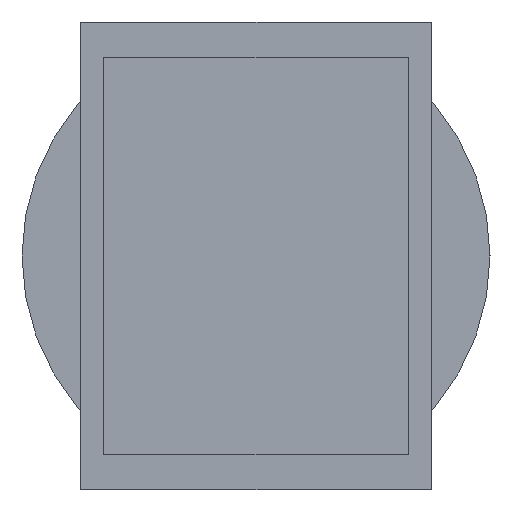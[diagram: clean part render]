
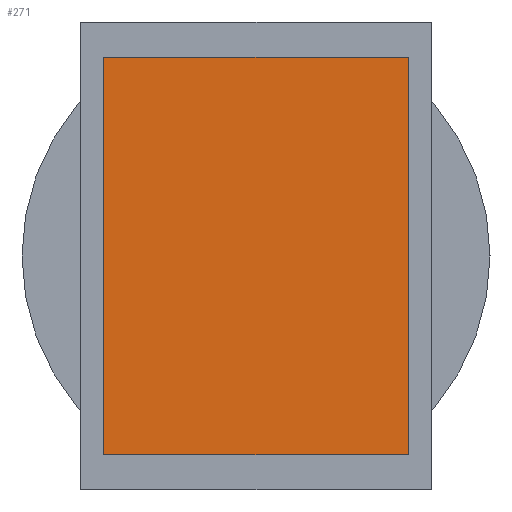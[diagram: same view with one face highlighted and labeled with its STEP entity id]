
A CAD part, left-side view. The second image highlights one B-rep face of the part: STEP entity #271.
In plain terms, the highlighted planar face has unit normal (-1, 0, 0).
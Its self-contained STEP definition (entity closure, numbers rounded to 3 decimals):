
#11 = VERTEX_POINT ( 'NONE', #242 ) ;
#34 = ORIENTED_EDGE ( 'NONE', *, *, #183, .F. ) ;
#35 = ORIENTED_EDGE ( 'NONE', *, *, #161, .F. ) ;
#66 = EDGE_CURVE ( 'NONE', #67, #68, #337, .T. ) ;
#67 = VERTEX_POINT ( 'NONE', #369 ) ;
#68 = VERTEX_POINT ( 'NONE', #368 ) ;
#150 = EDGE_CURVE ( 'NONE', #11, #67, #563, .T. ) ;
#161 = EDGE_CURVE ( 'NONE', #68, #184, #682, .T. ) ;
#183 = EDGE_CURVE ( 'NONE', #184, #11, #653, .T. ) ;
#184 = VERTEX_POINT ( 'NONE', #649 ) ;
#242 = CARTESIAN_POINT ( 'NONE',  ( 0., 0.65, -0.85 ) ) ;
#271 = ADVANCED_FACE ( 'NONE', ( #592 ), #591, .F. ) ;
#274 = EDGE_LOOP ( 'NONE', ( #275, #276, #34, #35 ) ) ;
#275 = ORIENTED_EDGE ( 'NONE', *, *, #66, .F. ) ;
#276 = ORIENTED_EDGE ( 'NONE', *, *, #150, .F. ) ;
#334 = DIRECTION ( 'NONE',  ( 0., -1., 0. ) ) ;
#335 = VECTOR ( 'NONE', #334, 1000. ) ;
#336 = CARTESIAN_POINT ( 'NONE',  ( 0., 0.65, 0.85 ) ) ;
#337 = LINE ( 'NONE', #336, #335 ) ;
#368 = CARTESIAN_POINT ( 'NONE',  ( 0., -0.65, 0.85 ) ) ;
#369 = CARTESIAN_POINT ( 'NONE',  ( 0., 0.65, 0.85 ) ) ;
#560 = DIRECTION ( 'NONE',  ( 0., 0., 1. ) ) ;
#561 = VECTOR ( 'NONE', #560, 1000. ) ;
#562 = CARTESIAN_POINT ( 'NONE',  ( 0., 0.65, 0.85 ) ) ;
#563 = LINE ( 'NONE', #562, #561 ) ;
#587 = DIRECTION ( 'NONE',  ( 0., 0., -1. ) ) ;
#588 = DIRECTION ( 'NONE',  ( 1., 0., 0. ) ) ;
#589 = CARTESIAN_POINT ( 'NONE',  ( 0., -0.65, 0.85 ) ) ;
#590 = AXIS2_PLACEMENT_3D ( 'NONE', #589, #588, #587 ) ;
#591 = PLANE ( 'NONE',  #590 ) ;
#592 = FACE_OUTER_BOUND ( 'NONE', #274, .T. ) ;
#649 = CARTESIAN_POINT ( 'NONE',  ( 0., -0.65, -0.85 ) ) ;
#650 = DIRECTION ( 'NONE',  ( 0., 1., 0. ) ) ;
#651 = VECTOR ( 'NONE', #650, 1000. ) ;
#652 = CARTESIAN_POINT ( 'NONE',  ( 0., 0.65, -0.85 ) ) ;
#653 = LINE ( 'NONE', #652, #651 ) ;
#679 = DIRECTION ( 'NONE',  ( 0., 0., -1. ) ) ;
#680 = VECTOR ( 'NONE', #679, 1000. ) ;
#681 = CARTESIAN_POINT ( 'NONE',  ( 0., -0.65, 0.85 ) ) ;
#682 = LINE ( 'NONE', #681, #680 ) ;
